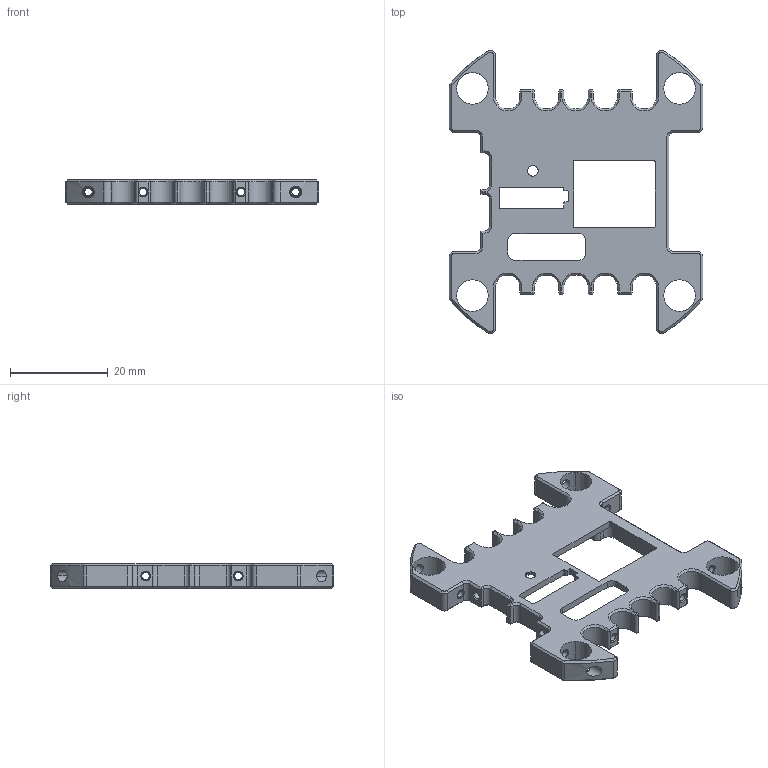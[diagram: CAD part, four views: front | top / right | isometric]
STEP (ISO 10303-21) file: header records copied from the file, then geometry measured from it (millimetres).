
FILE_DESCRIPTION(/* description */ ('(C) Elphel, Inc. 2012. Licensed under CERN OHL v.1.1 or later, see http://ohwr.org/cernohl'),/* implementation_level */ '2;1');
FILE_NAME(/* name */ '0353-19-742',/* time_stamp */ '2012-06-04T01:24:09-06:00',/* author */ (''),/* organization */ ('Elphel, Inc'),/* preprocessor_version */ 'ST-DEVELOPER v12',/* originating_system */ 'VariCAD 2012-1.04; kernel version (20100102)',/* authorisation */ '');
FILE_SCHEMA (('AUTOMOTIVE_DESIGN'));
Length unit declared in the file: millimetre
Products named in the file (1): Part
Bounding box: 51.85 x 57.95 x 5 mm (x, y, z)
Volume: 4653.5 mm3; surface area: 6384.3 mm2
Topology: 13 solids, 13 shells, 471 faces, 1169 edges, 700 vertices
Faces by surface type: cylinder 180, plane 173, cone 118
Entity records: 17989 total; most frequent: CARTESIAN_POINT 3134, DIRECTION 2464, ORIENTED_EDGE 2338, EDGE_CURVE 1169, AXIS2_PLACEMENT_3D 886, VERTEX_POINT 700, LINE 692, VECTOR 692
